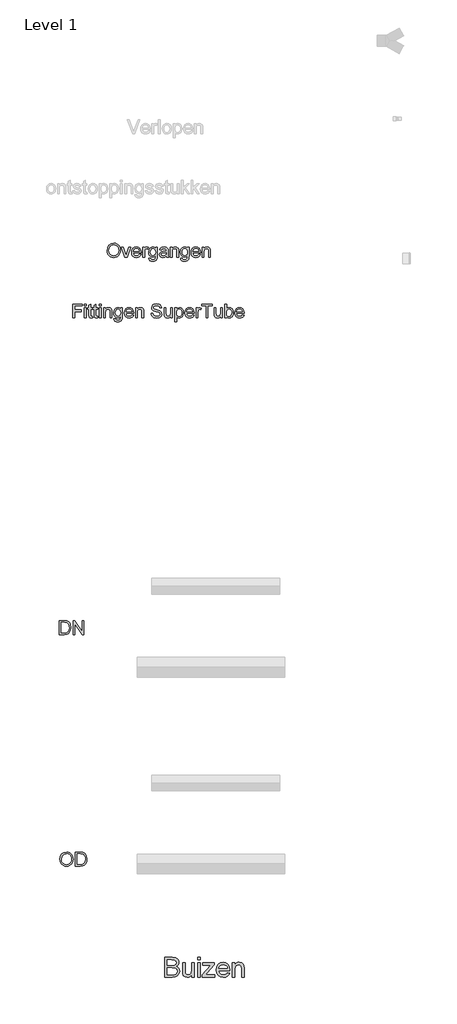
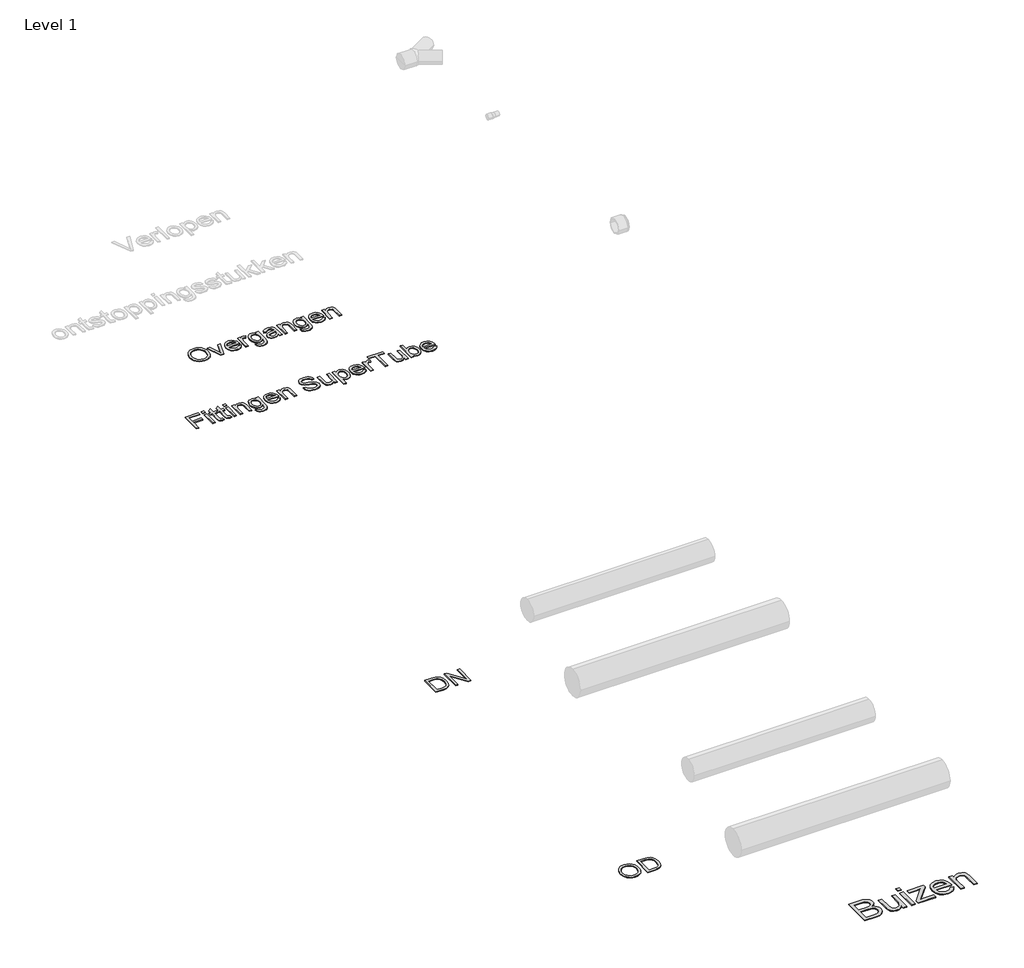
# One storey, part 2 of 9: 5 proxies.
"""IFC4 building model written with IfcOpenShell, lengths in millimetres."""

from ifc_helpers import new_model, si_unit, origin, origin_with_axes, place, context, project, spatial, polyline, outline, extrude, element, save

model = new_model("IFC4")

# Units and contexts
model_context = context("Model", 3, world=origin())
ifc_project = project(units=[si_unit("LENGTHUNIT", "METRE", prefix="MILLI")], contexts=[model_context])

# Site, building, storey
site = spatial("IfcSite", under=ifc_project)
building = spatial("IfcBuilding", under=site)
storey = spatial("IfcBuildingStorey", under=building, Name="Level 1", Elevation=0.0)

# Proxies
placement = place(None, origin())
element("IfcBuildingElementProxy", 1, Name="medium", ObjectType="medium", at=placement, inside=storey, context=model_context, shape_type="SweptSolid", body=[
    extrude(outline(polyline([(-2208.0921986, 11201.3122543), (-2208.0921986, 11402.2248746), (-2131.4255908, 11402.2248746), (-2110.3398212, 11400.7472153), (-2093.8771019, 11396.3142372), (-2081.2587494, 11388.8155759), (-2071.7060803, 11378.1408667), (-2065.6912097, 11365.5838279), (-2063.6862528, 11352.4381779), (-2065.3723786, 11340.3409917), (-2070.430756, 11328.9673066), (-2078.8981733, 11319.0160987), (-2090.8114186, 11311.1863435), (-2076.5805167, 11303.7551272), (-2066.065223, 11292.4488873), (-2059.5721058, 11278.0156503), (-2057.4077334, 11261.2034431), (-2063.3183708, 11234.2009047), (-2077.9600742, 11214.9729391), (-2099.8122647, 11204.7703451), (-2132.014202, 11201.3122543), (-2208.0921986, 11201.3122543)]), holes=[polyline([(-2182.9781211, 11320.6041226), (-2137.115499, 11320.6041226), (-2110.3336898, 11322.7623637), (-2094.2204584, 11332.0575154), (-2088.8003303, 11348.4160015), (-2093.8525764, 11364.799013), (-2108.3226015, 11374.4865722), (-2140.5981153, 11377.1107971), (-2182.9781211, 11377.1107971), (-2182.9781211, 11320.6041226)]), polyline([(-2182.9781211, 11226.4263319), (-2131.4746418, 11226.4263319), (-2112.8352874, 11227.4073505), (-2097.0654125, 11232.8765295), (-2086.6175638, 11244.0356167), (-2082.5218109, 11260.9581885), (-2087.3288024, 11280.4804597), (-2093.6257158, 11287.5376626), (-2102.9024735, 11292.1300562), (-2133.9271884, 11295.4900451), (-2182.9781211, 11295.4900451), (-2182.9781211, 11226.4263319)])]), origin_with_axes(), (0.0, 0.0, 1.0), 5.0),
    extrude(outline(polyline([(-1931.8373457, 11201.3122543), (-1931.8373457, 11226.6715865), (-1940.924031, 11214.2034526), (-1951.5067697, 11205.2976426), (-1963.5855619, 11199.9541566), (-1977.1604075, 11198.1729946), (-2000.7784316, 11203.1761898), (-2017.0633413, 11215.7332285), (-2024.5436085, 11234.2254302), (-2026.0151365, 11257.5736741), (-2026.0151365, 11348.8574599), (-2000.901059, 11348.8574599), (-2000.901059, 11269.3949489), (-1999.38048, 11243.790362), (-1995.7200542, 11235.2493684), (-1989.4476662, 11228.7562512), (-1970.7347353, 11223.2870722), (-1949.7654616, 11228.8788785), (-1941.408409, 11235.4823603), (-1935.9085731, 11244.1091931), (-1931.8373457, 11272.0927502), (-1931.8373457, 11348.8574599), (-1906.7232682, 11348.8574599), (-1906.7232682, 11201.3122543), (-1931.8373457, 11201.3122543)])), origin_with_axes(), (0.0, 0.0, 1.0), 5.0),
    extrude(outline(polyline([(-1872.1914116, 11201.3122543), (-1872.1914116, 11348.8574599), (-1847.077334, 11348.8574599), (-1847.077334, 11201.3122543), (-1872.1914116, 11201.3122543)])), origin_with_axes(), (0.0, 0.0, 1.0), 5.0),
    extrude(outline(polyline([(-1872.1914116, 11377.1107971), (-1872.1914116, 11402.2248746), (-1847.077334, 11402.2248746), (-1847.077334, 11377.1107971), (-1872.1914116, 11377.1107971)])), origin_with_axes(), (0.0, 0.0, 1.0), 5.0),
    extrude(outline(polyline([(-1825.1025162, 11201.3122543), (-1825.1025162, 11224.9548039), (-1738.4295181, 11323.7433823), (-1764.0831559, 11323.7433823), (-1818.8239968, 11323.7433823), (-1818.8239968, 11348.8574599), (-1702.6713882, 11348.8574599), (-1702.6713882, 11327.5203041), (-1779.5341997, 11239.8662874), (-1791.3064236, 11226.4263319), (-1762.2682714, 11226.4263319), (-1699.5321285, 11226.4263319), (-1699.5321285, 11201.3122543), (-1825.1025162, 11201.3122543)])), origin_with_axes(), (0.0, 0.0, 1.0), 5.0),
    extrude(outline(polyline([(-1571.1167867, 11245.26189), (-1546.4932185, 11242.1226303), (-1555.365306, 11223.569115), (-1569.5226314, 11209.6999638), (-1588.6463638, 11201.0547369), (-1612.417672, 11198.1729946), (-1641.8850199, 11203.1455329), (-1664.5588135, 11218.0631478), (-1679.0165759, 11241.9570834), (-1683.83583, 11273.8585838), (-1678.967525, 11306.8330733), (-1664.3626098, 11331.4934297), (-1641.9953845, 11346.8708971), (-1613.8401491, 11351.9967195), (-1586.5616992, 11346.8831598), (-1564.7646909, 11331.5424806), (-1550.4724754, 11306.9311751), (-1545.7084036, 11274.0057366), (-1545.8555564, 11267.2367079), (-1658.7217525, 11267.2367079), (-1654.3746136, 11248.4379379), (-1644.2762528, 11234.6178376), (-1629.7019945, 11226.1197635), (-1611.9271627, 11223.2870722), (-1587.3035945, 11228.535522), (-1578.1555956, 11235.3413389), (-1571.1167867, 11245.26189)]), holes=[polyline([(-1658.7217525, 11292.3507854), (-1570.8224811, 11292.3507854), (-1574.2192582, 11305.6190627), (-1580.8779223, 11315.1104182), (-1595.5196257, 11323.939586), (-1613.938251, 11326.882642), (-1630.8669541, 11324.5343286), (-1644.864864, 11317.4893884), (-1654.5953428, 11306.5081108), (-1658.7217525, 11292.3507854)])]), origin_with_axes(), (0.0, 0.0, 1.0), 5.0),
    extrude(outline(polyline([(-1520.594326, 11201.3122543), (-1520.594326, 11348.8574599), (-1495.4802485, 11348.8574599), (-1495.4802485, 11328.2560681), (-1486.7553139, 11338.6426031), (-1476.2768084, 11346.0615567), (-1464.044732, 11350.5129288), (-1450.0590848, 11351.9967195), (-1426.3429589, 11347.2142536), (-1410.1561511, 11334.6572148), (-1402.6268329, 11316.1895387), (-1401.3024577, 11291.909327), (-1401.3024577, 11201.3122543), (-1426.4165353, 11201.3122543), (-1426.4165353, 11288.5248126), (-1429.3105403, 11310.7448852), (-1439.5376598, 11322.4925835), (-1456.7790626, 11326.882642), (-1471.4882111, 11324.4178326), (-1484.0268557, 11317.0234045), (-1492.6169003, 11302.7373204), (-1495.4802485, 11279.5975429), (-1495.4802485, 11201.3122543), (-1520.594326, 11201.3122543)])), origin_with_axes(), (0.0, 0.0, 1.0), 5.0),
])
element("IfcBuildingElementProxy", 2, Name="small", ObjectType="small", at=placement, inside=storey, context=model_context, shape_type="SweptSolid", body=[
    extrude(outline(polyline([(-2793.0552282, 18588.5373291), (-2788.3684116, 18619.6368467), (-2774.3079617, 18643.1653528), (-2752.8395948, 18657.9726031), (-2725.9290268, 18662.9083532), (-2707.4821973, 18660.5906967), (-2690.9409965, 18653.637727), (-2677.2067354, 18642.5387272), (-2667.1807247, 18627.7829803), (-2661.0518107, 18610.0829513), (-2659.0088393, 18590.1511048), (-2661.1591096, 18569.953157), (-2667.6099204, 18552.0041944), (-2678.0050393, 18537.2226959), (-2691.9882339, 18526.52714), (-2708.3878001, 18520.0377016), (-2726.0320338, 18517.8745555), (-2744.7621324, 18520.2651753), (-2761.3977562, 18527.4370348), (-2775.0976817, 18538.7420485), (-2785.0206854, 18553.532131), (-2791.0465925, 18570.5497389), (-2793.0552282, 18588.5373291)]), holes=[polyline([(-2775.4753739, 18588.3656508), (-2771.9602615, 18566.3650812), (-2761.4149241, 18549.6006987), (-2745.5647283, 18538.990982), (-2726.1350407, 18535.4544097), (-2706.422084, 18539.0253176), (-2690.5461365, 18549.7380413), (-2680.0780543, 18567.0174587), (-2676.5886936, 18590.2884474), (-2678.0822945, 18605.8510821), (-2682.5630972, 18619.3020741), (-2689.9152189, 18630.3023589), (-2700.0227767, 18638.5128719), (-2712.2162254, 18643.6245922), (-2725.8260198, 18645.328499), (-2744.7363807, 18642.0451522), (-2760.8140501, 18632.1951117), (-2771.810043, 18614.6710529), (-2775.4753739, 18588.3656508)])]), origin_with_axes(), (0.0, 0.0, 1.0), 5.0),
    extrude(outline(polyline([(-2611.6943097, 18520.0720372), (-2648.0214304, 18623.3536811), (-2629.4115066, 18623.3536811), (-2607.4023531, 18561.4808346), (-2600.775572, 18540.673429), (-2594.2861337, 18560.3134224), (-2572.1396375, 18623.3536811), (-2553.5297137, 18623.3536811), (-2589.4104709, 18520.0720372), (-2611.6943097, 18520.0720372)])), origin_with_axes(), (0.0, 0.0, 1.0), 5.0),
    extrude(outline(polyline([(-2465.8364562, 18550.8367822), (-2448.5999585, 18548.6393004), (-2454.8104197, 18535.6518397), (-2464.7205475, 18525.9434339), (-2478.1071602, 18519.8917751), (-2494.7470759, 18517.8745555), (-2515.3742194, 18521.3553323), (-2531.245875, 18531.7976627), (-2541.3663086, 18548.5234176), (-2544.7397865, 18570.8544679), (-2541.331973, 18593.9366105), (-2531.1085323, 18611.19886), (-2515.4514746, 18621.9630872), (-2495.7428099, 18625.5511629), (-2476.6478949, 18621.9716711), (-2461.3899892, 18611.2331957), (-2451.3854383, 18594.0052818), (-2448.050588, 18570.9574748), (-2448.153595, 18566.2191547), (-2527.1599323, 18566.2191547), (-2524.116935, 18553.0600158), (-2517.0480825, 18543.3859456), (-2506.8461016, 18537.4372937), (-2494.4037194, 18535.4544097), (-2477.1672217, 18539.1283246), (-2465.8364562, 18550.8367822)]), holes=[polyline([(-2527.1599323, 18583.799009), (-2465.6304423, 18583.799009), (-2472.6692511, 18599.7307519), (-2482.9184435, 18605.9111695), (-2495.8114812, 18607.9713086), (-2507.6615734, 18606.3274892), (-2517.4601103, 18601.3960311), (-2524.2714455, 18593.7091368), (-2527.1599323, 18583.799009)])]), origin_with_axes(), (0.0, 0.0, 1.0), 5.0),
    extrude(outline(polyline([(-2430.4707337, 18520.0720372), (-2430.4707337, 18623.3536811), (-2415.0883613, 18623.3536811), (-2415.0883613, 18608.0743156), (-2404.1696236, 18622.1519333), (-2393.1822147, 18625.5511629), (-2375.5336891, 18620.1261297), (-2381.4050858, 18604.3660651), (-2393.7659208, 18607.9713086), (-2403.7060923, 18604.5034077), (-2410.0410203, 18594.8894249), (-2412.8908795, 18574.3567045), (-2412.8908795, 18520.0720372), (-2430.4707337, 18520.0720372)])), origin_with_axes(), (0.0, 0.0, 1.0), 5.0),
    extrude(outline(polyline([(-2368.9412438, 18511.2821101), (-2351.3613895, 18509.0846283), (-2345.6616711, 18499.814002), (-2328.5968516, 18495.8997376), (-2310.6049695, 18500.3290368), (-2302.0210563, 18512.7585432), (-2300.8193085, 18533.256928), (-2313.1973113, 18523.3682599), (-2328.2878308, 18520.0720372), (-2346.4127635, 18523.9090465), (-2359.9281349, 18535.4200741), (-2368.3360779, 18552.2960475), (-2371.1387256, 18572.227894), (-2366.1085524, 18599.4732345), (-2359.9538866, 18610.5336067), (-2351.5502356, 18618.7527036), (-2341.1851604, 18623.8515481), (-2329.1462221, 18625.5511629), (-2313.4634126, 18621.7055698), (-2300.8193085, 18610.1687904), (-2300.8193085, 18623.3536811), (-2283.2394542, 18623.3536811), (-2283.2394542, 18534.1839906), (-2284.441202, 18513.5954747), (-2288.0464456, 18500.0371838), (-2294.2569068, 18491.0455347), (-2303.2743076, 18484.1569443), (-2314.9012181, 18479.7791486), (-2328.9402082, 18478.3198833), (-2345.2968548, 18480.3757306), (-2358.1770166, 18486.5432722), (-2366.4390331, 18496.8396761), (-2368.9412438, 18511.2821101)]), holes=[polyline([(-2353.5588713, 18573.4296418), (-2351.6832863, 18557.3047608), (-2346.0565311, 18546.2186369), (-2337.5970847, 18539.7935779), (-2327.2234255, 18537.6518915), (-2316.9270216, 18539.780702), (-2308.4246556, 18546.1671334), (-2302.7206452, 18557.1116228), (-2300.8193085, 18572.914607), (-2302.7764407, 18588.155345), (-2308.6478373, 18599.129878), (-2317.2746701, 18605.760951), (-2327.4981108, 18607.9713086), (-2337.5369973, 18605.7952866), (-2345.9535242, 18599.2672206), (-2351.6575345, 18588.4557819), (-2353.5588713, 18573.4296418)])]), origin_with_axes(), (0.0, 0.0, 1.0), 5.0),
    extrude(outline(polyline([(-2190.9452192, 18533.256928), (-2207.9928709, 18521.3424564), (-2226.8259765, 18517.8745555), (-2241.517344, 18519.9604464), (-2252.3545344, 18526.2181191), (-2259.0371109, 18535.720511), (-2261.2646363, 18547.5405596), (-2257.8997424, 18561.446499), (-2249.0583117, 18571.5411809), (-2236.7489802, 18577.3095706), (-2221.538286, 18579.9534159), (-2191.0482262, 18585.9964908), (-2190.9452192, 18589.9107552), (-2192.155551, 18597.7564519), (-2195.7865463, 18602.889632), (-2203.9069282, 18606.7008895), (-2215.2205258, 18607.9713086), (-2233.006394, 18604.5892468), (-2241.4873003, 18592.5889361), (-2259.0671546, 18594.7864179), (-2251.4618074, 18611.9542444), (-2236.1481063, 18622.0145907), (-2212.9543727, 18625.5511629), (-2191.6491001, 18622.4266185), (-2179.6144538, 18614.5809218), (-2174.2237563, 18602.6492824), (-2173.365365, 18587.2669099), (-2173.365365, 18565.3950991), (-2172.472638, 18534.8535358), (-2168.9704014, 18520.0720372), (-2186.5502557, 18520.0720372), (-2190.9452192, 18533.256928)]), holes=[polyline([(-2190.9452192, 18568.4166365), (-2219.3064685, 18563.025939), (-2234.4313236, 18560.1760798), (-2241.2812864, 18555.5407667), (-2243.6847821, 18548.7766431), (-2238.448595, 18539.2656672), (-2223.0833903, 18535.4544097), (-2205.2975221, 18539.6605272), (-2193.8294141, 18549.8410483), (-2191.0482262, 18563.4379668), (-2190.9452192, 18568.4166365)])]), origin_with_axes(), (0.0, 0.0, 1.0), 5.0),
    extrude(outline(polyline([(-2149.1930653, 18520.0720372), (-2149.1930653, 18623.3536811), (-2131.6132111, 18623.3536811), (-2131.6132111, 18608.9327069), (-2118.1708029, 18621.3965489), (-2099.8183965, 18625.5511629), (-2083.2171083, 18622.2034367), (-2071.8863429, 18613.4135096), (-2066.6158201, 18600.4861363), (-2065.6887575, 18583.4899881), (-2065.6887575, 18520.0720372), (-2083.2686118, 18520.0720372), (-2083.2686118, 18581.1208281), (-2085.2944153, 18596.6748788), (-2092.4533989, 18604.8982677), (-2104.5223809, 18607.9713086), (-2114.8187848, 18606.2459421), (-2123.5958361, 18601.0698424), (-2129.6088673, 18591.0695835), (-2131.6132111, 18574.8717392), (-2131.6132111, 18520.0720372), (-2149.1930653, 18520.0720372)])), origin_with_axes(), (0.0, 0.0, 1.0), 5.0),
    extrude(outline(polyline([(-2045.9114215, 18511.2821101), (-2028.3315672, 18509.0846283), (-2022.6318488, 18499.814002), (-2005.5670293, 18495.8997376), (-1987.5751472, 18500.3290368), (-1978.991234, 18512.7585432), (-1977.7894861, 18533.256928), (-1990.167489, 18523.3682599), (-2005.2580084, 18520.0720372), (-2023.3829412, 18523.9090465), (-2036.8983126, 18535.4200741), (-2045.3062556, 18552.2960475), (-2048.1089032, 18572.227894), (-2043.0787301, 18599.4732345), (-2036.9240643, 18610.5336067), (-2028.5204133, 18618.7527036), (-2018.1553381, 18623.8515481), (-2006.1163998, 18625.5511629), (-1990.4335903, 18621.7055698), (-1977.7894861, 18610.1687904), (-1977.7894861, 18623.3536811), (-1960.2096319, 18623.3536811), (-1960.2096319, 18534.1839906), (-1961.4113797, 18513.5954747), (-1965.0166233, 18500.0371838), (-1971.2270845, 18491.0455347), (-1980.2444853, 18484.1569443), (-1991.8713958, 18479.7791486), (-2005.9103858, 18478.3198833), (-2022.2670325, 18480.3757306), (-2035.1471943, 18486.5432722), (-2043.4092108, 18496.8396761), (-2045.9114215, 18511.2821101)]), holes=[polyline([(-2030.529049, 18573.4296418), (-2028.6534639, 18557.3047608), (-2023.0267088, 18546.2186369), (-2014.5672623, 18539.7935779), (-2004.1936032, 18537.6518915), (-1993.8971993, 18539.780702), (-1985.3948333, 18546.1671334), (-1979.6908229, 18557.1116228), (-1977.7894861, 18572.914607), (-1979.7466184, 18588.155345), (-1985.618015, 18599.129878), (-1994.2448478, 18605.760951), (-2004.4682884, 18607.9713086), (-2014.5071749, 18605.7952866), (-2022.9237019, 18599.2672206), (-2028.6277122, 18588.4557819), (-2030.529049, 18573.4296418)])]), origin_with_axes(), (0.0, 0.0, 1.0), 5.0),
    extrude(outline(polyline([(-1861.5289655, 18550.8367822), (-1844.2924677, 18548.6393004), (-1850.5029289, 18535.6518397), (-1860.4130568, 18525.9434339), (-1873.7996694, 18519.8917751), (-1890.4395852, 18517.8745555), (-1911.0667287, 18521.3553323), (-1926.9383842, 18531.7976627), (-1937.0588179, 18548.5234176), (-1940.4322958, 18570.8544679), (-1937.0244823, 18593.9366105), (-1926.8010416, 18611.19886), (-1911.1439839, 18621.9630872), (-1891.4353191, 18625.5511629), (-1872.3404042, 18621.9716711), (-1857.0824984, 18611.2331957), (-1847.0779476, 18594.0052818), (-1843.7430973, 18570.9574748), (-1843.8461042, 18566.2191547), (-1922.8524415, 18566.2191547), (-1919.8094443, 18553.0600158), (-1912.7405917, 18543.3859456), (-1902.5386109, 18537.4372937), (-1890.0962287, 18535.4544097), (-1872.8597309, 18539.1283246), (-1861.5289655, 18550.8367822)]), holes=[polyline([(-1922.8524415, 18583.799009), (-1861.3229516, 18583.799009), (-1868.3617604, 18599.7307519), (-1878.6109528, 18605.9111695), (-1891.5039904, 18607.9713086), (-1903.3540826, 18606.3274892), (-1913.1526196, 18601.3960311), (-1919.9639547, 18593.7091368), (-1922.8524415, 18583.799009)])]), origin_with_axes(), (0.0, 0.0, 1.0), 5.0),
    extrude(outline(polyline([(-1826.163243, 18520.0720372), (-1826.163243, 18623.3536811), (-1808.5833887, 18623.3536811), (-1808.5833887, 18608.9327069), (-1795.1409806, 18621.3965489), (-1776.7885742, 18625.5511629), (-1760.187286, 18622.2034367), (-1748.8565205, 18613.4135096), (-1743.5859978, 18600.4861363), (-1742.6589352, 18583.4899881), (-1742.6589352, 18520.0720372), (-1760.2387895, 18520.0720372), (-1760.2387895, 18581.1208281), (-1762.264593, 18596.6748788), (-1769.4235766, 18604.8982677), (-1781.4925586, 18607.9713086), (-1791.7889625, 18606.2459421), (-1800.5660138, 18601.0698424), (-1806.579045, 18591.0695835), (-1808.5833887, 18574.8717392), (-1808.5833887, 18520.0720372), (-1826.163243, 18520.0720372)])), origin_with_axes(), (0.0, 0.0, 1.0), 5.0),
])
element("IfcBuildingElementProxy", 3, Name="small", ObjectType="small", at=placement, inside=storey, context=model_context, shape_type="SweptSolid", body=[
    extrude(outline(polyline([(-3141.9437205, 17903.9050787), (-3141.9437205, 18044.5439129), (-3047.4520037, 18044.5439129), (-3047.4520037, 18026.9640586), (-3124.3638662, 18026.9640586), (-3124.3638662, 17985.2119047), (-3058.4394127, 17985.2119047), (-3058.4394127, 17967.6320504), (-3124.3638662, 17967.6320504), (-3124.3638662, 17903.9050787), (-3141.9437205, 17903.9050787)])), origin_with_axes(), (0.0, 0.0, 1.0), 5.0),
    extrude(outline(polyline([(-3025.4771859, 18026.9640586), (-3025.4771859, 18044.5439129), (-3007.8973316, 18044.5439129), (-3007.8973316, 18026.9640586), (-3025.4771859, 18026.9640586)])), origin_with_axes(), (0.0, 0.0, 1.0), 5.0),
    extrude(outline(polyline([(-3025.4771859, 17903.9050787), (-3025.4771859, 18007.1867226), (-3007.8973316, 18007.1867226), (-3007.8973316, 17903.9050787), (-3025.4771859, 17903.9050787)])), origin_with_axes(), (0.0, 0.0, 1.0), 5.0),
    extrude(outline(polyline([(-2944.1703599, 17918.5664025), (-2941.9728781, 17903.3900439), (-2955.1234331, 17901.7075969), (-2969.8534282, 17904.6261274), (-2977.2012579, 17912.282978), (-2979.3300684, 17932.2319923), (-2979.3300684, 17989.6068683), (-2992.5149591, 17989.6068683), (-2992.5149591, 18007.1867226), (-2979.3300684, 18007.1867226), (-2979.3300684, 18032.2860848), (-2961.7502141, 18042.6211163), (-2961.7502141, 18007.1867226), (-2944.1703599, 18007.1867226), (-2944.1703599, 17989.6068683), (-2961.7502141, 17989.6068683), (-2961.7502141, 17932.7470271), (-2960.8231515, 17923.6824147), (-2957.8187819, 17920.4720312), (-2951.8272105, 17919.2874512), (-2944.1703599, 17918.5664025)])), origin_with_axes(), (0.0, 0.0, 1.0), 5.0),
    extrude(outline(polyline([(-2889.2333153, 17918.5664025), (-2887.0358335, 17903.3900439), (-2900.1863885, 17901.7075969), (-2914.9163836, 17904.6261274), (-2922.2642133, 17912.282978), (-2924.3930238, 17932.2319923), (-2924.3930238, 17989.6068683), (-2937.5779145, 17989.6068683), (-2937.5779145, 18007.1867226), (-2924.3930238, 18007.1867226), (-2924.3930238, 18032.2860848), (-2906.8131695, 18042.6211163), (-2906.8131695, 18007.1867226), (-2889.2333153, 18007.1867226), (-2889.2333153, 17989.6068683), (-2906.8131695, 17989.6068683), (-2906.8131695, 17932.7470271), (-2905.8861069, 17923.6824147), (-2902.8817373, 17920.4720312), (-2896.8901658, 17919.2874512), (-2889.2333153, 17918.5664025)])), origin_with_axes(), (0.0, 0.0, 1.0), 5.0),
    extrude(outline(polyline([(-2871.653461, 18026.9640586), (-2871.653461, 18044.5439129), (-2854.0736067, 18044.5439129), (-2854.0736067, 18026.9640586), (-2871.653461, 18026.9640586)])), origin_with_axes(), (0.0, 0.0, 1.0), 5.0),
    extrude(outline(polyline([(-2871.653461, 17903.9050787), (-2871.653461, 18007.1867226), (-2854.0736067, 18007.1867226), (-2854.0736067, 17903.9050787), (-2871.653461, 17903.9050787)])), origin_with_axes(), (0.0, 0.0, 1.0), 5.0),
    extrude(outline(polyline([(-2827.7038253, 17903.9050787), (-2827.7038253, 18007.1867226), (-2810.123971, 18007.1867226), (-2810.123971, 17992.7657483), (-2796.6815629, 18005.2295903), (-2778.3291564, 18009.3842043), (-2761.7278683, 18006.0364782), (-2750.3971028, 17997.246551), (-2745.1265801, 17984.3191777), (-2744.1995175, 17967.3230296), (-2744.1995175, 17903.9050787), (-2761.7793718, 17903.9050787), (-2761.7793718, 17964.9538695), (-2763.8051753, 17980.5079203), (-2770.9641589, 17988.7313091), (-2783.0331409, 17991.8043501), (-2793.3295448, 17990.0789835), (-2802.1065961, 17984.9028838), (-2808.1196273, 17974.9026249), (-2810.123971, 17958.7047807), (-2810.123971, 17903.9050787), (-2827.7038253, 17903.9050787)])), origin_with_axes(), (0.0, 0.0, 1.0), 5.0),
    extrude(outline(polyline([(-2724.4221814, 17895.1151515), (-2706.8423271, 17892.9176698), (-2701.1426088, 17883.6470435), (-2684.0777893, 17879.732779), (-2666.0859072, 17884.1620783), (-2657.5019939, 17896.5915846), (-2656.3002461, 17917.0899694), (-2668.678249, 17907.2013014), (-2683.7687684, 17903.9050787), (-2701.8937012, 17907.7420879), (-2715.4090725, 17919.2531155), (-2723.8170155, 17936.1290889), (-2726.6196632, 17956.0609354), (-2721.5894901, 17983.306276), (-2715.4348243, 17994.3666482), (-2707.0311732, 18002.5857451), (-2696.666098, 18007.6845895), (-2684.6271597, 18009.3842043), (-2668.9443503, 18005.5386112), (-2656.3002461, 17994.0018318), (-2656.3002461, 18007.1867226), (-2638.7203918, 18007.1867226), (-2638.7203918, 17918.017032), (-2639.9221397, 17897.4285162), (-2643.5273832, 17883.8702252), (-2649.7378444, 17874.8785761), (-2658.7552453, 17867.9899858), (-2670.3821557, 17863.61219), (-2684.4211458, 17862.1529248), (-2700.7777925, 17864.208772), (-2713.6579542, 17870.3763136), (-2721.9199707, 17880.6727175), (-2724.4221814, 17895.1151515)]), holes=[polyline([(-2709.0398089, 17957.2626833), (-2707.1642239, 17941.1378023), (-2701.5374688, 17930.0516783), (-2693.0780223, 17923.6266193), (-2682.7043632, 17921.484933), (-2672.4079593, 17923.6137434), (-2663.9055932, 17930.0001749), (-2658.2015829, 17940.9446642), (-2656.3002461, 17956.7476485), (-2658.2573783, 17971.9883864), (-2664.128775, 17982.9629194), (-2672.7556077, 17989.5939924), (-2682.9790484, 17991.8043501), (-2693.0179349, 17989.6283281), (-2701.4344618, 17983.1002621), (-2707.1384721, 17972.2888234), (-2709.0398089, 17957.2626833)])]), origin_with_axes(), (0.0, 0.0, 1.0), 5.0),
    extrude(outline(polyline([(-2540.0397254, 17934.6698237), (-2522.8032277, 17932.4723419), (-2529.0136889, 17919.4848812), (-2538.9238167, 17909.7764753), (-2552.3104294, 17903.7248165), (-2568.9503452, 17901.7075969), (-2589.5774886, 17905.1883737), (-2605.4491442, 17915.6307041), (-2615.5695779, 17932.356459), (-2618.9430558, 17954.6875093), (-2615.5352422, 17977.7696519), (-2605.3118016, 17995.0319014), (-2589.6547439, 18005.7961286), (-2569.9460791, 18009.3842043), (-2550.8511641, 18005.8047125), (-2535.5932584, 17995.0662371), (-2525.5887075, 17977.8383232), (-2522.2538572, 17954.7905163), (-2522.3568642, 17950.0521962), (-2601.3632015, 17950.0521962), (-2598.3202042, 17936.8930572), (-2591.2513517, 17927.218987), (-2581.0493708, 17921.2703351), (-2568.6069886, 17919.2874512), (-2551.3704909, 17922.961366), (-2540.0397254, 17934.6698237)]), holes=[polyline([(-2601.3632015, 17967.6320504), (-2539.8337115, 17967.6320504), (-2546.8725204, 17983.5637934), (-2557.1217127, 17989.7442109), (-2570.0147504, 17991.8043501), (-2581.8648426, 17990.1605307), (-2591.6633795, 17985.2290725), (-2598.4747147, 17977.5421782), (-2601.3632015, 17967.6320504)])]), origin_with_axes(), (0.0, 0.0, 1.0), 5.0),
    extrude(outline(polyline([(-2504.674003, 17903.9050787), (-2504.674003, 18007.1867226), (-2487.0941487, 18007.1867226), (-2487.0941487, 17992.7657483), (-2473.6517406, 18005.2295903), (-2455.2993341, 18009.3842043), (-2438.6980459, 18006.0364782), (-2427.3672805, 17997.246551), (-2422.0967578, 17984.3191777), (-2421.1696952, 17967.3230296), (-2421.1696952, 17903.9050787), (-2438.7495494, 17903.9050787), (-2438.7495494, 17964.9538695), (-2440.7753529, 17980.5079203), (-2447.9343366, 17988.7313091), (-2460.0033186, 17991.8043501), (-2470.2997225, 17990.0789835), (-2479.0767737, 17984.9028838), (-2485.089805, 17974.9026249), (-2487.0941487, 17958.7047807), (-2487.0941487, 17903.9050787), (-2504.674003, 17903.9050787)])), origin_with_axes(), (0.0, 0.0, 1.0), 5.0),
    extrude(outline(polyline([(-2346.4553145, 17952.2496779), (-2328.8754602, 17952.2496779), (-2323.2100775, 17934.6526558), (-2309.3728094, 17923.5279043), (-2288.2907185, 17919.2874512), (-2269.9211442, 17922.4978347), (-2258.0581761, 17931.3220975), (-2254.1610795, 17943.1163943), (-2257.07961, 17954.0866354), (-2269.0284172, 17962.0696747), (-2294.6256465, 17968.7822948), (-2322.1800079, 17977.4520472), (-2337.1331847, 17990.5339309), (-2342.0603509, 18008.0107782), (-2335.9657725, 18027.9082891), (-2328.4677243, 18036.0458388), (-2318.1627365, 18041.9515711), (-2292.101976, 18046.7413947), (-2264.2900971, 18041.7283894), (-2253.6288769, 18035.5393879), (-2245.7488446, 18026.9983943), (-2240.761591, 18016.637611), (-2238.778707, 18004.9892408), (-2256.3585613, 18004.9892408), (-2259.5861127, 18015.4787827), (-2266.3159006, 18023.0497942), (-2276.8311943, 18027.6336038), (-2291.4152629, 18029.1615404), (-2306.342688, 18027.6507717), (-2316.5832965, 18023.1184655), (-2322.5061966, 18016.4487649), (-2324.4804966, 18008.525813), (-2318.8837852, 17996.3366562), (-2290.1791794, 17986.5166595), (-2259.0710779, 17977.6923967), (-2242.0577619, 17963.4431008), (-2236.5812253, 17943.5627578), (-2238.1563733, 17932.7255673), (-2242.8818176, 17922.5321704), (-2250.5644199, 17913.7594111), (-2261.0110423, 17907.1841335), (-2287.6040054, 17901.7075969), (-2304.8276273, 17903.18403), (-2319.00396, 17907.6133292), (-2330.2960978, 17915.0126624), (-2338.8671352, 17925.3991974), (-2344.3694236, 17938.0518855), (-2346.4553145, 17952.2496779)])), origin_with_axes(), (0.0, 0.0, 1.0), 5.0),
    extrude(outline(polyline([(-2146.4844721, 17903.9050787), (-2146.4844721, 17921.6566112), (-2160.2530689, 17906.6948505), (-2178.2106154, 17901.7075969), (-2194.7432322, 17905.2098335), (-2206.142669, 17913.9997606), (-2211.378856, 17926.9443018), (-2212.4089256, 17943.2880725), (-2212.4089256, 18007.1867226), (-2194.8290713, 18007.1867226), (-2194.8290713, 17951.5629649), (-2193.7646661, 17933.6397541), (-2186.8116964, 17923.1158765), (-2173.7126448, 17919.2874512), (-2159.0341532, 17923.2017156), (-2149.3343313, 17933.8629358), (-2146.4844721, 17953.4514258), (-2146.4844721, 18007.1867226), (-2128.9046178, 18007.1867226), (-2128.9046178, 17903.9050787), (-2146.4844721, 17903.9050787)])), origin_with_axes(), (0.0, 0.0, 1.0), 5.0),
    extrude(outline(polyline([(-2104.7323182, 17864.3504066), (-2104.7323182, 18007.1867226), (-2087.1524639, 18007.1867226), (-2087.1524639, 17989.9502248), (-2074.9976428, 18004.5257095), (-2058.5852007, 18009.3842043), (-2046.6964809, 18007.6845895), (-2036.301362, 18002.5857451), (-2027.8376235, 17994.3966919), (-2021.7430452, 17983.4264508), (-2016.8330468, 17956.3356206), (-2022.3782547, 17927.8541966), (-2029.176714, 17916.6779416), (-2038.4816759, 17908.4545527), (-2049.3188664, 17903.3943358), (-2060.7140112, 17901.7075969), (-2076.0105445, 17906.2227352), (-2087.1524639, 17917.6393398), (-2087.1524639, 17864.3504066), (-2104.7323182, 17864.3504066)]), holes=[polyline([(-2087.1524639, 17954.7218449), (-2085.2511271, 17938.9617803), (-2079.5471168, 17927.9400357), (-2071.1305899, 17921.4505973), (-2061.0917034, 17919.2874512), (-2050.8897225, 17921.5278525), (-2042.2585978, 17928.2490566), (-2036.3743252, 17939.6742451), (-2034.4129011, 17956.0265998), (-2036.3271137, 17971.7008253), (-2042.0697517, 17982.8770803), (-2050.4734027, 17989.5725326), (-2060.3706547, 17991.8043501), (-2070.3065342, 17989.4308981), (-2079.032082, 17982.310542), (-2085.1223684, 17970.6664638), (-2087.1524639, 17954.7218449)])]), origin_with_axes(), (0.0, 0.0, 1.0), 5.0),
    extrude(outline(polyline([(-1924.7448258, 17934.6698237), (-1907.508328, 17932.4723419), (-1913.7187892, 17919.4848812), (-1923.628917, 17909.7764753), (-1937.0155297, 17903.7248165), (-1953.6554455, 17901.7075969), (-1974.282589, 17905.1883737), (-1990.1542445, 17915.6307041), (-2000.2746782, 17932.356459), (-2003.6481561, 17954.6875093), (-2000.2403425, 17977.7696519), (-1990.0169019, 17995.0319014), (-1974.3598442, 18005.7961286), (-1954.6511794, 18009.3842043), (-1935.5562645, 18005.8047125), (-1920.2983587, 17995.0662371), (-1910.2938079, 17977.8383232), (-1906.9589576, 17954.7905163), (-1907.0619645, 17950.0521962), (-1986.0683018, 17950.0521962), (-1983.0253046, 17936.8930572), (-1975.956452, 17927.218987), (-1965.7544712, 17921.2703351), (-1953.312089, 17919.2874512), (-1936.0755912, 17922.961366), (-1924.7448258, 17934.6698237)]), holes=[polyline([(-1986.0683018, 17967.6320504), (-1924.5388119, 17967.6320504), (-1931.5776207, 17983.5637934), (-1941.8268131, 17989.7442109), (-1954.7198507, 17991.8043501), (-1966.5699429, 17990.1605307), (-1976.3684799, 17985.2290725), (-1983.179815, 17977.5421782), (-1986.0683018, 17967.6320504)])]), origin_with_axes(), (0.0, 0.0, 1.0), 5.0),
    extrude(outline(polyline([(-1889.3791033, 17903.9050787), (-1889.3791033, 18007.1867226), (-1873.9967308, 18007.1867226), (-1873.9967308, 17991.907357), (-1863.0779932, 18005.9849747), (-1852.0905843, 18009.3842043), (-1834.4420587, 18003.9591712), (-1840.3134553, 17988.1991065), (-1852.6742904, 17991.8043501), (-1862.6144619, 17988.3364491), (-1868.9493898, 17978.7224663), (-1871.799249, 17958.1897459), (-1871.799249, 17903.9050787), (-1889.3791033, 17903.9050787)])), origin_with_axes(), (0.0, 0.0, 1.0), 5.0),
    extrude(outline(polyline([(-1786.0974594, 17903.9050787), (-1786.0974594, 18026.9640586), (-1832.2445769, 18026.9640586), (-1832.2445769, 18044.5439129), (-1722.3704877, 18044.5439129), (-1722.3704877, 18026.9640586), (-1768.5176051, 18026.9640586), (-1768.5176051, 17903.9050787), (-1786.0974594, 17903.9050787)])), origin_with_axes(), (0.0, 0.0, 1.0), 5.0),
    extrude(outline(polyline([(-1638.8661799, 17903.9050787), (-1638.8661799, 17921.6566112), (-1652.6347767, 17906.6948505), (-1670.5923231, 17901.7075969), (-1687.12494, 17905.2098335), (-1698.5243767, 17913.9997606), (-1703.7605638, 17926.9443018), (-1704.7906334, 17943.2880725), (-1704.7906334, 18007.1867226), (-1687.2107791, 18007.1867226), (-1687.2107791, 17951.5629649), (-1686.1463739, 17933.6397541), (-1679.1934042, 17923.1158765), (-1666.0943526, 17919.2874512), (-1651.415861, 17923.2017156), (-1641.7160391, 17933.8629358), (-1638.8661799, 17953.4514258), (-1638.8661799, 18007.1867226), (-1621.2863256, 18007.1867226), (-1621.2863256, 17903.9050787), (-1638.8661799, 17903.9050787)])), origin_with_axes(), (0.0, 0.0, 1.0), 5.0),
    extrude(outline(polyline([(-1579.5341717, 17903.9050787), (-1597.114026, 17903.9050787), (-1597.114026, 18044.5439129), (-1579.5341717, 18044.5439129), (-1579.5341717, 17992.3880562), (-1567.2248401, 18005.1351673), (-1551.9283068, 18009.3842043), (-1534.3141168, 18005.555779), (-1520.648527, 17994.7915519), (-1512.2534599, 17978.0529211), (-1509.2147546, 17957.091005), (-1512.3607588, 17933.6225862), (-1521.7987714, 17916.1629068), (-1535.6489153, 17905.3214244), (-1552.0313137, 17901.7075969), (-1567.6626197, 17906.3686618), (-1579.5341717, 17920.3518564), (-1579.5341717, 17903.9050787)]), holes=[polyline([(-1579.5341717, 17956.2669493), (-1578.3324238, 17941.6056255), (-1574.7271803, 17931.6826219), (-1565.5166414, 17922.3862438), (-1553.5420824, 17919.2874512), (-1543.395897, 17921.5707721), (-1534.7261447, 17928.4207348), (-1528.7774928, 17939.7944199), (-1526.7946089, 17955.6489076), (-1528.6959456, 17971.7351609), (-1534.399956, 17982.9800873), (-1542.7993151, 17989.5982844), (-1552.7866981, 17991.8043501), (-1562.9328835, 17989.5210291), (-1571.6026359, 17982.6710664), (-1577.5512877, 17971.5033953), (-1579.5341717, 17956.2669493)])]), origin_with_axes(), (0.0, 0.0, 1.0), 5.0),
    extrude(outline(polyline([(-1417.1265335, 17934.6698237), (-1399.8900358, 17932.4723419), (-1406.100497, 17919.4848812), (-1416.0106248, 17909.7764753), (-1429.3972375, 17903.7248165), (-1446.0371533, 17901.7075969), (-1466.6642967, 17905.1883737), (-1482.5359523, 17915.6307041), (-1492.656386, 17932.356459), (-1496.0298639, 17954.6875093), (-1492.6220503, 17977.7696519), (-1482.3986097, 17995.0319014), (-1466.741552, 18005.7961286), (-1447.0328872, 18009.3842043), (-1427.9379722, 18005.8047125), (-1412.6800665, 17995.0662371), (-1402.6755156, 17977.8383232), (-1399.3406653, 17954.7905163), (-1399.4436723, 17950.0521962), (-1478.4500096, 17950.0521962), (-1475.4070124, 17936.8930572), (-1468.3381598, 17927.218987), (-1458.136179, 17921.2703351), (-1445.6937967, 17919.2874512), (-1428.457299, 17922.961366), (-1417.1265335, 17934.6698237)]), holes=[polyline([(-1478.4500096, 17967.6320504), (-1416.9205196, 17967.6320504), (-1423.9593285, 17983.5637934), (-1434.2085209, 17989.7442109), (-1447.1015585, 17991.8043501), (-1458.9516507, 17990.1605307), (-1468.7501877, 17985.2290725), (-1475.5615228, 17977.5421782), (-1478.4500096, 17967.6320504)])]), origin_with_axes(), (0.0, 0.0, 1.0), 5.0),
])
element("IfcBuildingElementProxy", 4, Name="small", ObjectType="small", at=placement, inside=storey, context=model_context, shape_type="SweptSolid", body=[
    extrude(outline(polyline([(-3279.3862618, 14684.1518583), (-3279.3862618, 14824.7906925), (-3230.8699843, 14824.7906925), (-3205.7706221, 14822.764889), (-3185.100559, 14812.7045427), (-3175.3749853, 14801.991819), (-3168.4477674, 14788.6695857), (-3162.9197273, 14755.2266598), (-3166.6623134, 14726.8482427), (-3176.2762962, 14706.3670258), (-3189.1178304, 14693.6113307), (-3205.9251325, 14686.555354), (-3228.5351599, 14684.1518583), (-3279.3862618, 14684.1518583)]), holes=[polyline([(-3261.8064076, 14701.7317126), (-3230.698306, 14701.7317126), (-3208.0711108, 14704.2725509), (-3195.0235627, 14711.4487024), (-3184.3280068, 14728.9083819), (-3180.4995815, 14755.501345), (-3182.3751666, 14774.6606393), (-3188.0019217, 14788.8069283), (-3196.3154416, 14798.5239181), (-3206.2513212, 14804.3953147), (-3231.1790052, 14807.2108383), (-3261.8064076, 14807.2108383), (-3261.8064076, 14701.7317126)])]), origin_with_axes(), (0.0, 0.0, 1.0), 5.0),
    extrude(outline(polyline([(-3138.7474276, 14684.1518583), (-3138.7474276, 14824.7906925), (-3119.9314898, 14824.7906925), (-3046.4531927, 14713.3714989), (-3046.4531927, 14824.7906925), (-3028.8733384, 14824.7906925), (-3028.8733384, 14684.1518583), (-3047.6892762, 14684.1518583), (-3121.1675733, 14795.6053876), (-3121.1675733, 14684.1518583), (-3138.7474276, 14684.1518583)])), origin_with_axes(), (0.0, 0.0, 1.0), 5.0),
])
element("IfcBuildingElementProxy", 5, Name="small", ObjectType="small", at=placement, inside=storey, context=model_context, shape_type="SweptSolid", body=[
    extrude(outline(polyline([(-3273.3072117, 12398.8197114), (-3268.620395, 12429.919229), (-3254.5599452, 12453.4477351), (-3233.0915782, 12468.2549854), (-3206.1810103, 12473.1907355), (-3187.7341808, 12470.8730789), (-3171.19298, 12463.9201092), (-3157.4587188, 12452.8211094), (-3147.4327082, 12438.0653626), (-3141.3037941, 12420.3653335), (-3139.2608228, 12400.433487), (-3141.4110931, 12380.2355392), (-3147.8619038, 12362.2865767), (-3158.2570228, 12347.5050781), (-3172.2402174, 12336.8095223), (-3188.6397836, 12330.3200839), (-3206.2840172, 12328.1569377), (-3225.0141159, 12330.5475576), (-3241.6497397, 12337.7194171), (-3255.3496652, 12349.0244308), (-3265.2726689, 12363.8145132), (-3271.298576, 12380.8321212), (-3273.3072117, 12398.8197114)]), holes=[polyline([(-3255.7273574, 12398.6480331), (-3252.2122449, 12376.6474635), (-3241.6669075, 12359.883081), (-3225.8167118, 12349.2733642), (-3206.3870242, 12345.736792), (-3186.6740675, 12349.3076999), (-3170.79812, 12360.0204236), (-3160.3300378, 12377.2998409), (-3156.8406771, 12400.5708297), (-3158.334278, 12416.1334643), (-3162.8150807, 12429.5844563), (-3170.1672024, 12440.5847411), (-3180.2747602, 12448.7952541), (-3192.4682089, 12453.9069745), (-3206.0780033, 12455.6108812), (-3224.9883641, 12452.3275344), (-3241.0660336, 12442.477494), (-3252.0620264, 12424.9534352), (-3255.7273574, 12398.6480331)])]), origin_with_axes(), (0.0, 0.0, 1.0), 5.0),
    extrude(outline(polyline([(-3115.0885232, 12330.3544195), (-3115.0885232, 12470.9932537), (-3066.5722456, 12470.9932537), (-3041.4728834, 12468.9674502), (-3020.8028204, 12458.9071039), (-3011.0772467, 12448.1943802), (-3004.1500287, 12434.8721469), (-2998.6219886, 12401.429221), (-3002.3645748, 12373.0508039), (-3011.9785576, 12352.5695869), (-3024.8200917, 12339.8138919), (-3041.6273938, 12332.7579152), (-3064.2374213, 12330.3544195), (-3115.0885232, 12330.3544195)]), holes=[polyline([(-3097.5086689, 12347.9342738), (-3066.4005674, 12347.9342738), (-3043.7733721, 12350.4751121), (-3030.725824, 12357.6512636), (-3020.0302682, 12375.110943), (-3016.2018429, 12401.7039062), (-3018.0774279, 12420.8632005), (-3023.704183, 12435.0094895), (-3032.017703, 12444.7264793), (-3041.9535825, 12450.5978759), (-3066.8812665, 12453.4133994), (-3097.5086689, 12453.4133994), (-3097.5086689, 12347.9342738)])]), origin_with_axes(), (0.0, 0.0, 1.0), 5.0),
])

save(model, "model.ifc")
